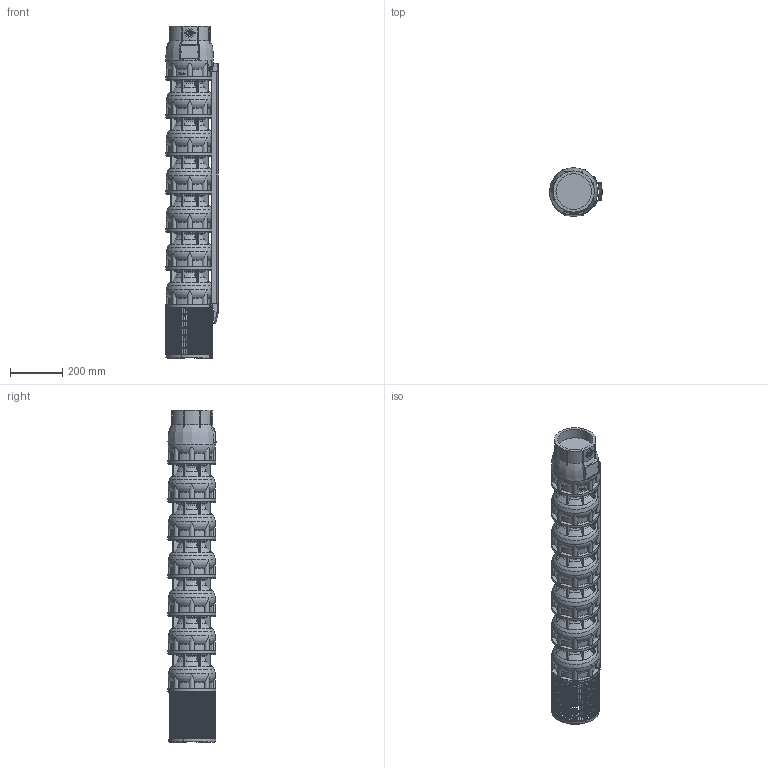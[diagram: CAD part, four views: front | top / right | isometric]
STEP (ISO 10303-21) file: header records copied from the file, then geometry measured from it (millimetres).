
FILE_DESCRIPTION(/* description */ ('Unknown'),/* implementation_level */ '2;1');
FILE_NAME(/* name */ 'VSI134-6_WR_M8-50_DLE',/* time_stamp */ '2023-09-14T13:15:51+02:00',/* author */ ('Unknown'),/* organization */ ('Unknown'),/* preprocessor_version */ 'ST-DEVELOPER v18.102',/* originating_system */ 'Solid Edge',/* authorisation */ 'Unknown');
FILE_SCHEMA (('AUTOMOTIVE_DESIGN {1 0 10303 214 3 1 1}'));
Products named in the file (11): VSI134-6_WR_M8-50_DLE; VSI134_testata; VSI134_diffusore; VSI134_supporto_8×8; VSI134_filtro_A; VSI134_filtro_B; VSI134_terminale_top_copricavo_basso; VSI134_terminale_bottom_copricavo_basso; LOW 134-6; M5X8_UNI7687; VSI134_giunto_8×8
Assembly tree (24 placements, depth 2):
  VSI134-6_WR_M8-50_DLE
    VSI134_testata
    VSI134_diffusore  x6
    VSI134_supporto_8×8
    VSI134_filtro_A
    VSI134_filtro_B
    VSI134_terminale_top_copricavo_basso
    VSI134_terminale_bottom_copricavo_basso
    LOW 134-6
    M5X8_UNI7687  x10
    VSI134_giunto_8×8
Bounding box: 201.57 x 183.52 x 1267 mm (x, y, z)
Volume: 21913369.6 mm3; surface area: 1750744.7 mm2
Topology: 63 solids, 65 shells, 3525 faces, 9961 edges, 6642 vertices
Faces by surface type: plane 2634, cylinder 479, torus 312, cone 57, bspline 31, sphere 12
Full cylindrical faces by diameter (mm): 2.4 x2, 3 x2, 4.2 x16, 5 x10, 5.5 x8, 26 x1, 44 x1, 69 x1, 74 x1, 98 x1, 135.472 x1, 157 x1, 182 x7
Entity records: 85505 total; most frequent: CARTESIAN_POINT 18357, ORIENTED_EDGE 14056, DIRECTION 13478, EDGE_CURVE 7028, VERTEX_POINT 4730, AXIS2_PLACEMENT_3D 4590, LINE 4298, VECTOR 4298
